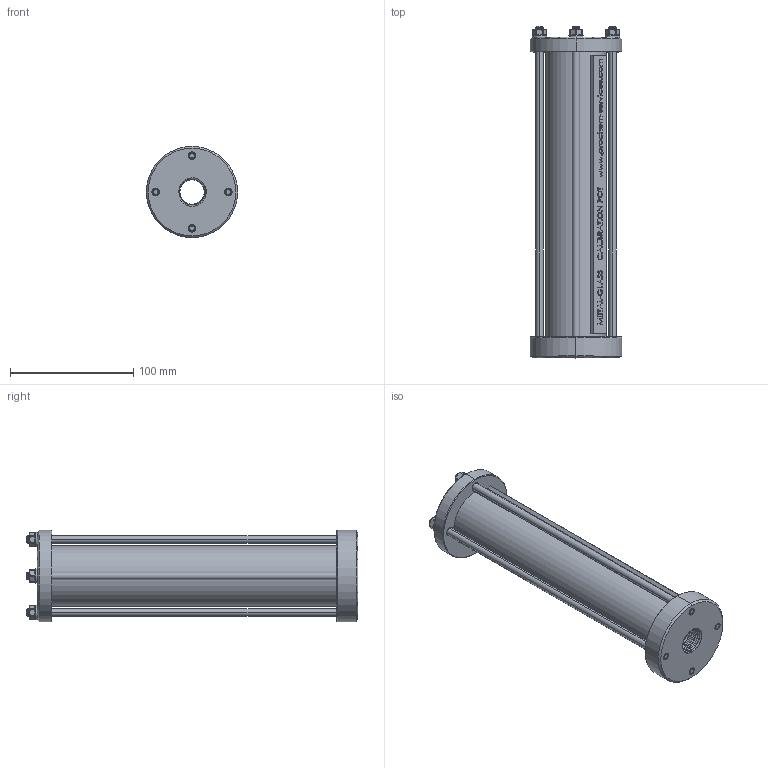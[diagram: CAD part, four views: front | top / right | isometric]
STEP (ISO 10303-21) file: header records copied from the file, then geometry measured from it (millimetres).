
FILE_DESCRIPTION (( 'STEP AP214' ), '1' );
FILE_NAME ('0.25LTR-C-11-34.STEP', '2026-01-12T12:48:10', ( '' ), ( '' ), 'SwSTEP 2.0', 'SolidWorks 2024', '' );
FILE_SCHEMA (( 'AUTOMOTIVE_DESIGN' ));
Length unit declared in the file: millimetre
Products named in the file (1): 0.25LTR-C-11-34
Bounding box: 74 x 269 x 74 mm (x, y, z)
Surface area: 116632.6 mm2 (no closed solid volume)
Topology: 0 solids, 34 shells, 710 faces, 2463 edges, 1730 vertices
Faces by surface type: bspline 234, cylinder 214, plane 162, cone 56, sphere 36, torus 8
Entity records: 61112 total; most frequent: CARTESIAN_POINT 35323, ORIENTED_EDGE 3797, DIRECTION 2851, EDGE_CURVE 2463, VERTEX_POINT 1730, VECTOR 1155, LINE 1155, AXIS2_PLACEMENT_3D 848
